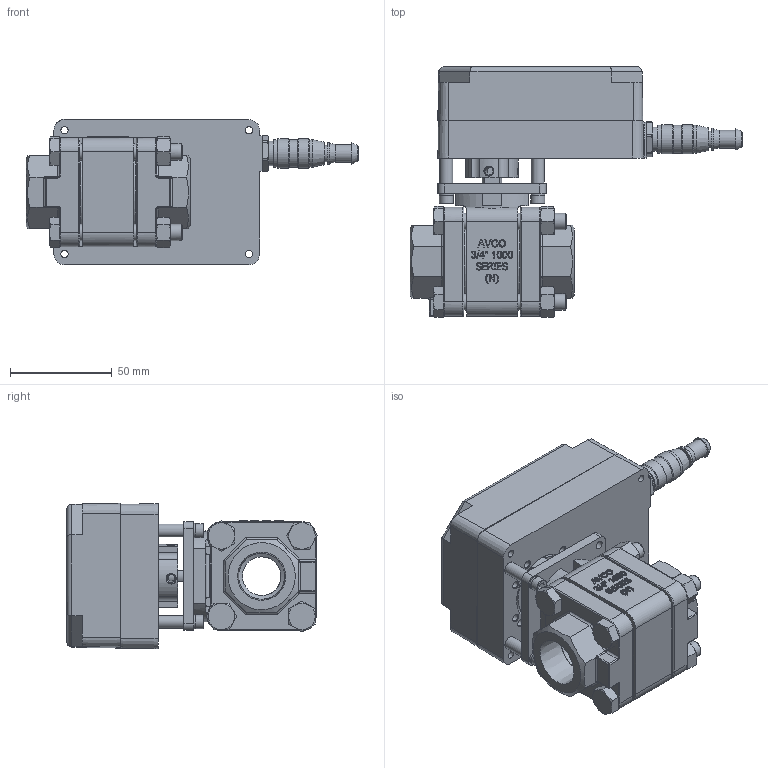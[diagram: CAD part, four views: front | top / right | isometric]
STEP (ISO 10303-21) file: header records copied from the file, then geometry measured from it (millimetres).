
FILE_DESCRIPTION (( 'STEP AP203' ), '1' );
FILE_NAME ('#M-Series Assembly w. 1933TT-075 (Client Copy).STEP', '2020-09-02T15:42:10', ( 'Technician #5' ), ( '' ), 'SwSTEP 2.0', 'SolidWorks 2020', '' );
FILE_SCHEMA (( 'CONFIG_CONTROL_DESIGN' ));
Length unit declared in the file: inch
Products named in the file (13): 1174 Valve lever Extra Thick (.1875); Turck-Receptacle; #M-Series Assembly w. 1933TT-075 (Client Copy); Turck Cable; 1106B-cast___; 24976_Shrinkwrap_1.stp; 1107-cast___; 1100-SE-075-LH.stp; 1110-1 Drive Wheel (thicker top); 1100-SE-075-LH; Brass Washer Stamped; MtgKit (0.500); BSNPLN-Q216
Assembly tree (12 placements, depth 4):
  #M-Series Assembly w. 1933TT-075 (Client Copy)
    1106B-cast___
    1107-cast___
    1110-1 Drive Wheel (thicker top)
    Brass Washer Stamped
    BSNPLN-Q216
    Turck-Receptacle
    Turck Cable
    1100-SE-075-LH
      1100-SE-075-LH.stp
        24976_Shrinkwrap_1.stp
    MtgKit (0.500)
    1174 Valve lever Extra Thick (.1875)
Bounding box: 163.26 x 123.15 x 71.52 mm (x, y, z)
Volume: 134737.8 mm3; surface area: 119572.4 mm2
Topology: 12 solids, 16 shells, 1443 faces, 3644 edges, 2333 vertices
Faces by surface type: plane 606, cylinder 381, cone 257, bspline 137, torus 54, sphere 8
Full cylindrical faces by diameter (mm): 0.762 x5, 1.016 x5, 2.458 x2, 3.155 x1, 3.175 x1, 3.568 x14, 3.569 x7, 3.988 x2, 4.039 x2, 4.134 x5, 4.216 x4, 4.914 x4, 5.08 x1, 6.35 x4, 6.858 x3, 6.985 x3, 8 x13, 8.1 x1, 8.3 x1, 8.8 x1, 9 x1, 9.4 x1, 9.5 x1, 9.525 x1, 9.55 x1, 9.6 x1, 9.7 x1, 9.9 x1, 10 x2, 10.433 x1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
Entity records: 54629 total; most frequent: CARTESIAN_POINT 23735, ORIENTED_EDGE 6730, DIRECTION 4589, EDGE_CURVE 3367, VERTEX_POINT 2259, B_SPLINE_CURVE_WITH_KNOTS 1998, AXIS2_PLACEMENT_3D 1914, EDGE_LOOP 1815
